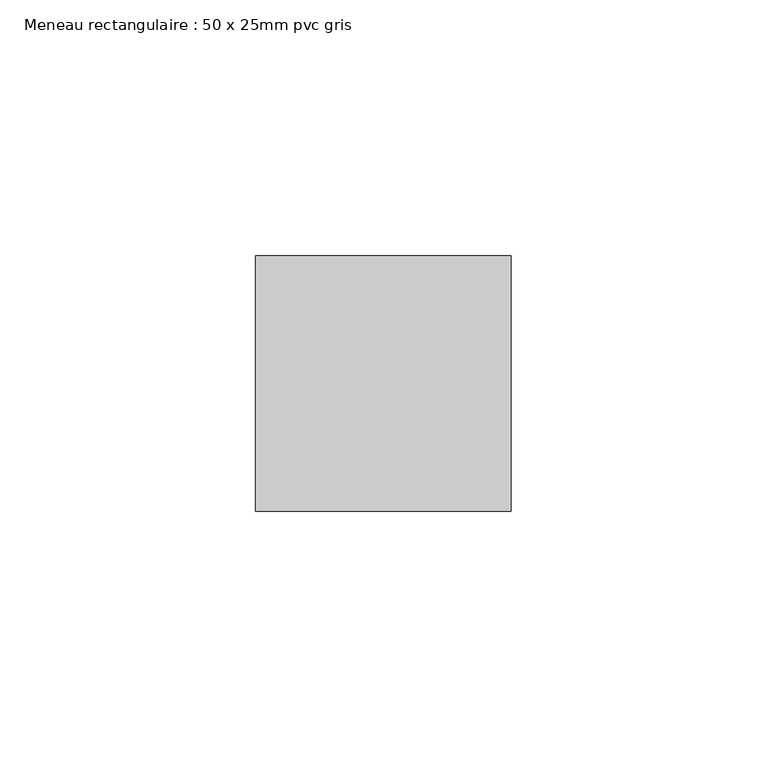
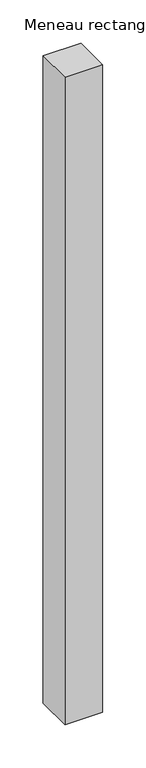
"""IFC4 building model written with IfcOpenShell, lengths in millimetres: member geometry, Meneau rectangulaire : 50 x 25mm pvc gris."""

from ifc_helpers import new_model, si_unit, frame, origin, place, context, project, spatial, polyline, outline, extrude, source, transform, mapped, element, save


def meneau_rectangulaire_50_x_25mm_pvc_gris_ebb8d609(model_context):
    return source(origin(), model_context, "Body", "SweptSolid", [
        extrude(outline(polyline([(0.0, 0.0), (0.0, -50.0), (-50.0, -50.0), (-50.0, 0.0), (0.0, 0.0)])), frame((0.0, 0.0, -910.0), z_axis=(0.0, 0.0, 1.0), x_axis=(1.0, 0.0, 0.0)), (0.0, 0.0, 1.0), 910.0),
    ])


if __name__ == "__main__":
    model = new_model("IFC4")
    model_context = context("Model", 3, world=origin())
    ifc_project = project(units=[si_unit("LENGTHUNIT", "METRE", prefix="MILLI")], contexts=[model_context])
    site = spatial("IfcSite", under=ifc_project)
    building = spatial("IfcBuilding", under=site)
    placement = place(None, origin())
    meneau_rectangulaire_50_x_25mm_pvc_gris_shape = meneau_rectangulaire_50_x_25mm_pvc_gris_ebb8d609(model_context)
    element("IfcMember", 1, ObjectType="Meneau rectangulaire : 50 x 25mm pvc gris", at=placement, inside=building, context=model_context, shape_type="MappedRepresentation", body=[
        mapped(meneau_rectangulaire_50_x_25mm_pvc_gris_shape, transform((0.0, 0.0, 0.0), x_axis=(1.0, 0.0, 0.0), y_axis=(0.0, 1.0, 0.0), z_axis=(0.0, 0.0, 1.0))),
    ])
    save(model, "model.ifc")
